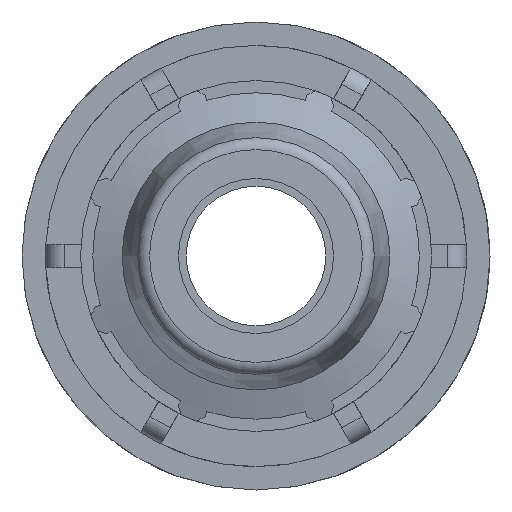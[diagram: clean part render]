
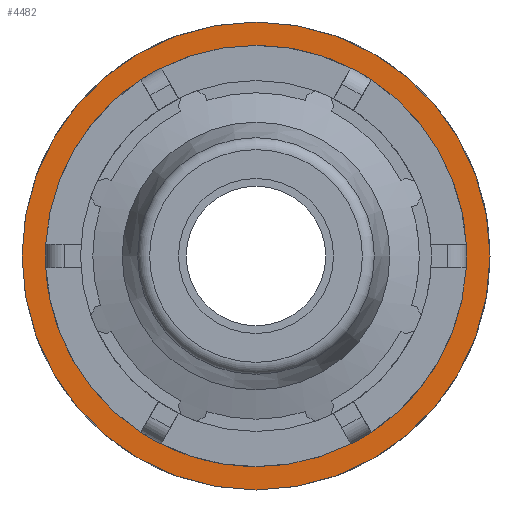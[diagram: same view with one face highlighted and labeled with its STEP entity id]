
A CAD part, left-side view. The second image highlights one B-rep face of the part: STEP entity #4482.
In plain terms, the highlighted planar face has unit normal (-1, 0, 0).
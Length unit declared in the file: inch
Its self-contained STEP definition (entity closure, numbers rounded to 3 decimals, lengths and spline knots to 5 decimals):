
#48=FACE_BOUND('',#607,.T.);
#382=FACE_OUTER_BOUND('',#606,.T.);
#606=EDGE_LOOP('',(#3669,#3670));
#607=EDGE_LOOP('',(#3671,#3672));
#682=CIRCLE('',#4612,1.26);
#683=CIRCLE('',#4613,1.26);
#826=CIRCLE('',#4905,1.008);
#827=CIRCLE('',#4906,1.008);
#1670=VERTEX_POINT('',#6470);
#1671=VERTEX_POINT('',#6472);
#1958=VERTEX_POINT('',#7699);
#1959=VERTEX_POINT('',#7700);
#2134=EDGE_CURVE('',#1670,#1671,#682,.T.);
#2135=EDGE_CURVE('',#1671,#1670,#683,.T.);
#2579=EDGE_CURVE('',#1958,#1959,#826,.T.);
#2580=EDGE_CURVE('',#1959,#1958,#827,.T.);
#3669=ORIENTED_EDGE('',*,*,#2135,.F.);
#3670=ORIENTED_EDGE('',*,*,#2134,.F.);
#3671=ORIENTED_EDGE('',*,*,#2579,.T.);
#3672=ORIENTED_EDGE('',*,*,#2580,.T.);
#4059=PLANE('',#4904);
#4482=ADVANCED_FACE('',(#382,#48),#4059,.T.);
#4612=AXIS2_PLACEMENT_3D('',#6473,#5210,#5211);
#4613=AXIS2_PLACEMENT_3D('',#6474,#5212,#5213);
#4904=AXIS2_PLACEMENT_3D('',#7698,#6012,#6013);
#4905=AXIS2_PLACEMENT_3D('',#7701,#6014,#6015);
#4906=AXIS2_PLACEMENT_3D('',#7702,#6016,#6017);
#5210=DIRECTION('center_axis',(1.,0.,0.));
#5211=DIRECTION('ref_axis',(0.,0.,-1.));
#5212=DIRECTION('center_axis',(1.,0.,0.));
#5213=DIRECTION('ref_axis',(0.,0.,-1.));
#6012=DIRECTION('center_axis',(-1.,0.,0.));
#6013=DIRECTION('ref_axis',(0.,0.,1.));
#6014=DIRECTION('center_axis',(1.,0.,0.));
#6015=DIRECTION('ref_axis',(0.,0.,-1.));
#6016=DIRECTION('center_axis',(1.,0.,0.));
#6017=DIRECTION('ref_axis',(0.,0.,-1.));
#6470=CARTESIAN_POINT('',(1.06024,-1.26,0.));
#6472=CARTESIAN_POINT('',(1.06024,0.,1.26));
#6473=CARTESIAN_POINT('Origin',(1.06024,0.,0.));
#6474=CARTESIAN_POINT('Origin',(1.06024,0.,0.));
#7698=CARTESIAN_POINT('Origin',(1.06024,1.26,0.));
#7699=CARTESIAN_POINT('',(1.06024,1.008,0.));
#7700=CARTESIAN_POINT('',(1.06024,-1.008,0.));
#7701=CARTESIAN_POINT('Origin',(1.06024,0.,0.));
#7702=CARTESIAN_POINT('Origin',(1.06024,0.,0.));
